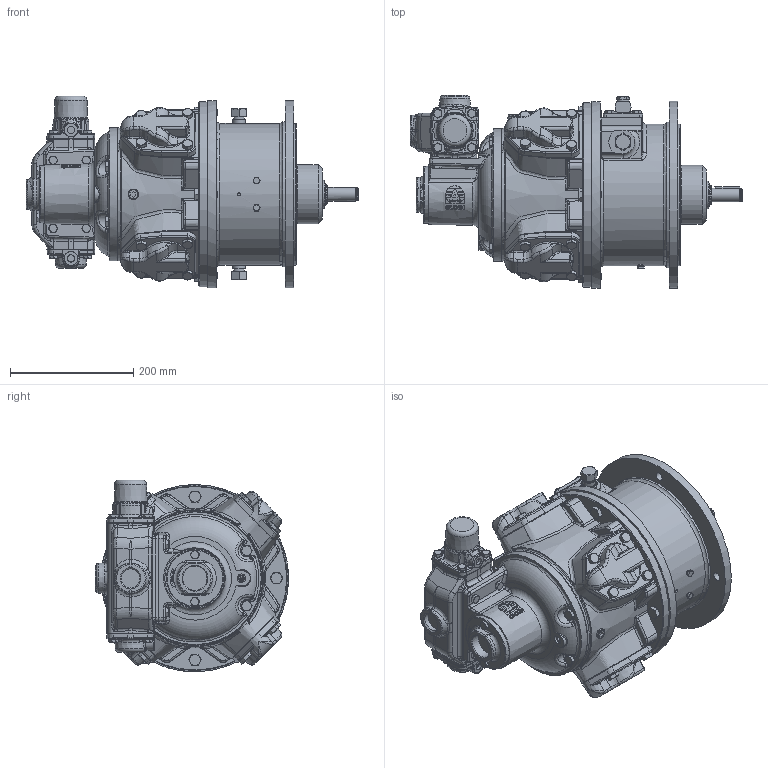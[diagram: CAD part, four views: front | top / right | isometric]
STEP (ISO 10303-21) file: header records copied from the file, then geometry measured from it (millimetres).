
FILE_DESCRIPTION (( 'STEP AP214' ), '1' );
FILE_NAME ('RM310+RCV310+RM310 Brake Defeature + Logo.STEP', '2023-05-17T13:12:18', ( '' ), ( '' ), 'SwSTEP 2.0', 'SolidWorks 2022', '' );
FILE_SCHEMA (( 'AUTOMOTIVE_DESIGN' ));
Length unit declared in the file: millimetre
Products named in the file (1): RM310+RCV310+RM310 Brake Defeature + Logo
Bounding box: 539.23 x 313.48 x 311.29 mm (x, y, z)
Volume: 19754054.6 mm3; surface area: 669431.7 mm2
Topology: 1 solids, 1 shells, 3280 faces, 8046 edges, 4847 vertices
Faces by surface type: plane 1390, bspline 684, cone 519, cylinder 503, torus 168, sphere 16
Full cylindrical faces by diameter (mm): 1.9 x2, 5 x1, 6 x2, 8 x1, 8.5 x1, 9.728 x2, 10 x4, 10.5 x1, 11.445 x3, 11.75 x2, 12 x4, 13 x18, 13.157 x1, 14 x6, 16 x20, 17.78 x2, 18 x4, 20.57 x2, 20.955 x2, 21.5 x1, 22 x1, 30.291 x2, 32 x1, 39.5 x1, 45 x1, 46.94 x1, 47.04 x1, 62.69 x1, 72 x1, 96 x1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
Entity records: 187139 total; most frequent: CARTESIAN_POINT 82233, ORIENTED_EDGE 15524, DIRECTION 12504, EDGE_CURVE 7762, AXIS2_PLACEMENT_3D 4822, VERTEX_POINT 4784, EDGE_LOOP 3590, FACE_OUTER_BOUND 3392
